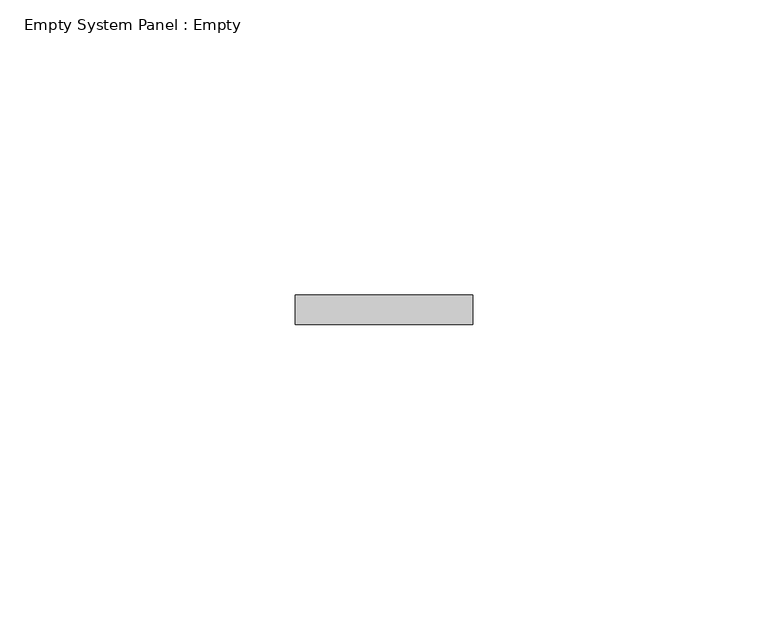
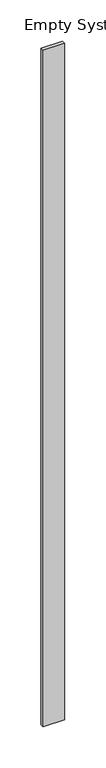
"""IFC4 building model written with IfcOpenShell, lengths in millimetres: plate geometry, Empty System Panel : Empty."""

from ifc_helpers import new_model, si_unit, origin, origin_with_axes, place, context, project, spatial, polyline, outline, extrude, source, transform, mapped, element, save


def empty_system_panel_empty_02ad7564(model_context):
    return source(origin(), model_context, "Body", "SweptSolid", [
        extrude(outline(polyline([(15.0, 97.5), (-15.0, 97.5), (-15.0, 102.5), (15.0, 102.5), (15.0, 97.5)])), origin_with_axes(), (0.0, 0.0, 1.0), 1000.0),
    ])


if __name__ == "__main__":
    model = new_model("IFC4")
    model_context = context("Model", 3, world=origin())
    ifc_project = project(units=[si_unit("LENGTHUNIT", "METRE", prefix="MILLI")], contexts=[model_context])
    site = spatial("IfcSite", under=ifc_project)
    building = spatial("IfcBuilding", under=site)
    placement = place(None, origin())
    empty_system_panel_empty_shape = empty_system_panel_empty_02ad7564(model_context)
    element("IfcPlate", 1, ObjectType="Empty System Panel : Empty", at=placement, inside=building, context=model_context, shape_type="MappedRepresentation", body=[
        mapped(empty_system_panel_empty_shape, transform((0.0, 0.0, 0.0), x_axis=(1.0, 0.0, 0.0), y_axis=(0.0, 1.0, 0.0), z_axis=(0.0, 0.0, 1.0))),
    ])
    save(model, "model.ifc")
